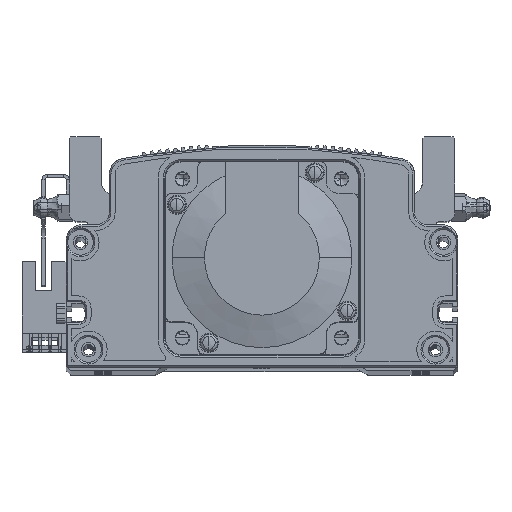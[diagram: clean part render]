
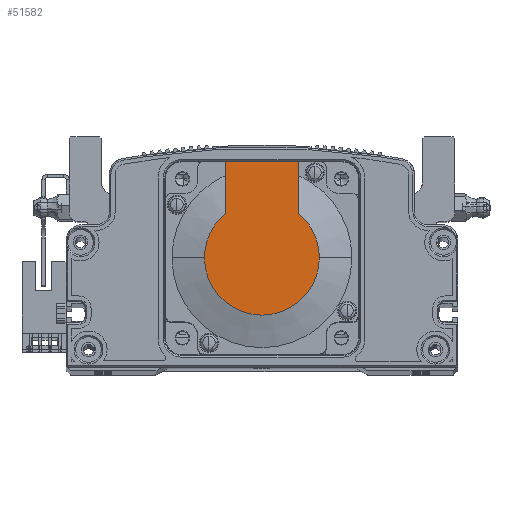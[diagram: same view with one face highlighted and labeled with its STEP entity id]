
A CAD part, top view. The second image highlights one B-rep face of the part: STEP entity #51582.
In plain terms, the highlighted planar face has unit normal (0, 0, 1) as drawn and (-1, 0, 0) by its records, which use the part's own axes.
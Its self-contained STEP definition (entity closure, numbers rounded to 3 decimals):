
#4261 = CARTESIAN_POINT ( 'NONE',  ( -118.5, 0., 0. ) ) ;
#4952 = EDGE_CURVE ( 'NONE', #54092, #76994, #52551, .T. ) ;
#5926 = VERTEX_POINT ( 'NONE', #28653 ) ;
#8904 = EDGE_CURVE ( 'NONE', #68781, #76994, #83235, .T. ) ;
#10156 = VECTOR ( 'NONE', #15166, 1000. ) ;
#11051 = VERTEX_POINT ( 'NONE', #69485 ) ;
#11490 = AXIS2_PLACEMENT_3D ( 'NONE', #58323, #13037, #19659 ) ;
#13037 = DIRECTION ( 'NONE',  ( -1., 0., 0. ) ) ;
#13669 = DIRECTION ( 'NONE',  ( 0., -1., 0. ) ) ;
#14045 = EDGE_CURVE ( 'NONE', #11051, #72106, #25287, .T. ) ;
#14343 = ORIENTED_EDGE ( 'NONE', *, *, #14045, .T. ) ;
#14804 = EDGE_CURVE ( 'NONE', #72106, #5926, #24132, .T. ) ;
#15166 = DIRECTION ( 'NONE',  ( 0., 0., 1. ) ) ;
#16453 = CIRCLE ( 'NONE', #26893, 17.881 ) ;
#17511 = DIRECTION ( 'NONE',  ( -1., 0., 0. ) ) ;
#19659 = DIRECTION ( 'NONE',  ( 0., 0., 1. ) ) ;
#20163 = AXIS2_PLACEMENT_3D ( 'NONE', #4261, #17511, #50631 ) ;
#21527 = CARTESIAN_POINT ( 'NONE',  ( -118.5, 30., 25. ) ) ;
#23152 = ORIENTED_EDGE ( 'NONE', *, *, #8904, .F. ) ;
#23219 = VECTOR ( 'NONE', #73292, 1000. ) ;
#24132 = CIRCLE ( 'NONE', #52006, 17.881 ) ;
#25287 = LINE ( 'NONE', #33281, #23219 ) ;
#26893 = AXIS2_PLACEMENT_3D ( 'NONE', #67199, #80009, #46038 ) ;
#28653 = CARTESIAN_POINT ( 'NONE',  ( -118.5, 0., -17.881 ) ) ;
#30470 = CARTESIAN_POINT ( 'NONE',  ( -118.5, 13.735, 11.45 ) ) ;
#33281 = CARTESIAN_POINT ( 'NONE',  ( -118.5, -8.941, -11.45 ) ) ;
#34329 = CARTESIAN_POINT ( 'NONE',  ( -118.5, 0., 0. ) ) ;
#42167 = CARTESIAN_POINT ( 'NONE',  ( -118.5, 0., 17.881 ) ) ;
#44930 = PLANE ( 'NONE',  #11490 ) ;
#45866 = VECTOR ( 'NONE', #13669, 1000. ) ;
#46038 = DIRECTION ( 'NONE',  ( 0., 0., -1. ) ) ;
#50631 = DIRECTION ( 'NONE',  ( 0., 0., -1. ) ) ;
#51582 = ADVANCED_FACE ( 'NONE', ( #57548 ), #44930, .T. ) ;
#51696 = LINE ( 'NONE', #21527, #10156 ) ;
#52006 = AXIS2_PLACEMENT_3D ( 'NONE', #34329, #54052, #54920 ) ;
#52551 = CIRCLE ( 'NONE', #20163, 17.881 ) ;
#53111 = ORIENTED_EDGE ( 'NONE', *, *, #83710, .T. ) ;
#54052 = DIRECTION ( 'NONE',  ( -1., 0., 0. ) ) ;
#54092 = VERTEX_POINT ( 'NONE', #42167 ) ;
#54920 = DIRECTION ( 'NONE',  ( 0., 0., -1. ) ) ;
#57548 = FACE_OUTER_BOUND ( 'NONE', #83545, .T. ) ;
#58323 = CARTESIAN_POINT ( 'NONE',  ( -118.5, -8.941, 0. ) ) ;
#58794 = CARTESIAN_POINT ( 'NONE',  ( -118.5, 13.735, -11.45 ) ) ;
#59524 = CARTESIAN_POINT ( 'NONE',  ( -118.5, 0., 11.45 ) ) ;
#62317 = ORIENTED_EDGE ( 'NONE', *, *, #14804, .T. ) ;
#67199 = CARTESIAN_POINT ( 'NONE',  ( -118.5, 0., 0. ) ) ;
#68266 = ORIENTED_EDGE ( 'NONE', *, *, #84406, .F. ) ;
#68781 = VERTEX_POINT ( 'NONE', #83301 ) ;
#69485 = CARTESIAN_POINT ( 'NONE',  ( -118.5, 30., -11.45 ) ) ;
#72106 = VERTEX_POINT ( 'NONE', #58794 ) ;
#73144 = ORIENTED_EDGE ( 'NONE', *, *, #4952, .T. ) ;
#73292 = DIRECTION ( 'NONE',  ( 0., -1., 0. ) ) ;
#76994 = VERTEX_POINT ( 'NONE', #30470 ) ;
#80009 = DIRECTION ( 'NONE',  ( -1., 0., 0. ) ) ;
#83235 = LINE ( 'NONE', #59524, #45866 ) ;
#83301 = CARTESIAN_POINT ( 'NONE',  ( -118.5, 30., 11.45 ) ) ;
#83545 = EDGE_LOOP ( 'NONE', ( #14343, #62317, #53111, #73144, #23152, #68266 ) ) ;
#83710 = EDGE_CURVE ( 'NONE', #5926, #54092, #16453, .T. ) ;
#84406 = EDGE_CURVE ( 'NONE', #11051, #68781, #51696, .T. ) ;
